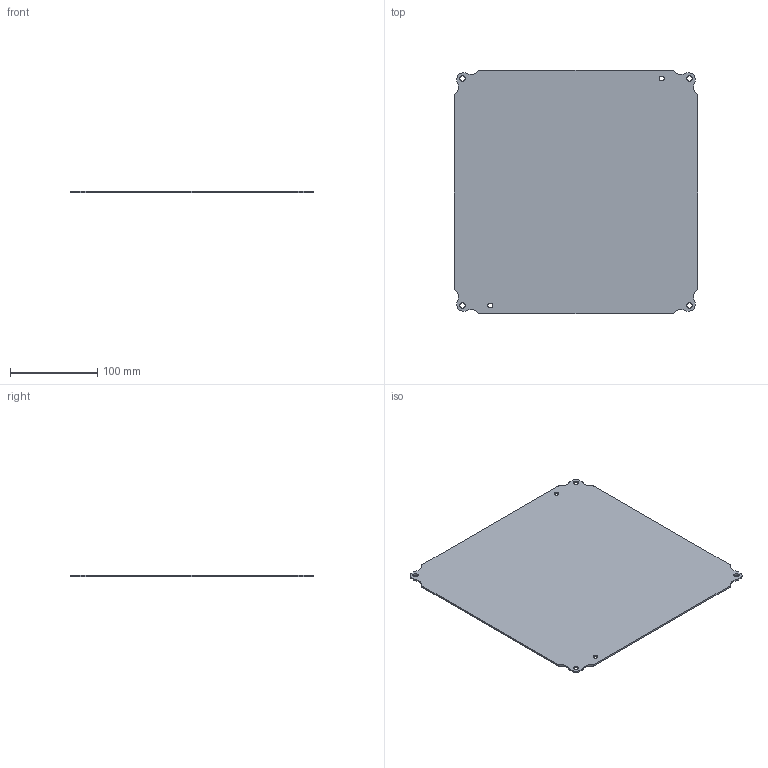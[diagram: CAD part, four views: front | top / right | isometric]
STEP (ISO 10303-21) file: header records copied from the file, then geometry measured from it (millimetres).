
FILE_DESCRIPTION((''),'2;1');
FILE_NAME('MODEL-082_ASM','2018-02-08T15:31:39',('johnh'),('SAGINAW CONTROL & ENGINEERING'),'CREO PARAMETRIC BY PTC INC, 2017260','CREO PARAMETRIC BY PTC INC, 2017260','');
FILE_SCHEMA(('AUTOMOTIVE_DESIGN { 1 0 10303 214 1 1 1 1 }'));
Length unit declared in the file: inch
Products named in the file (2): MODEL-082-SUBPNL; MODEL-082_ASM
Assembly tree (1 placements, depth 2):
  MODEL-082_ASM
    MODEL-082-SUBPNL
Bounding box: 279.4 x 279.4 x 1.91 mm (x, y, z)
Volume: 146904.8 mm3; surface area: 156537.7 mm2
Topology: 1 solids, 1 shells, 54 faces, 156 edges, 104 vertices
Faces by surface type: cylinder 40, plane 14
Entity records: 2983 total; most frequent: DIRECTION 350, CARTESIAN_POINT 321, ORIENTED_EDGE 312, PRESENTATION_STYLE_ASSIGNMENT 157, STYLED_ITEM 157, CURVE_STYLE 156, EDGE_CURVE 156, AXIS2_PLACEMENT_3D 137
